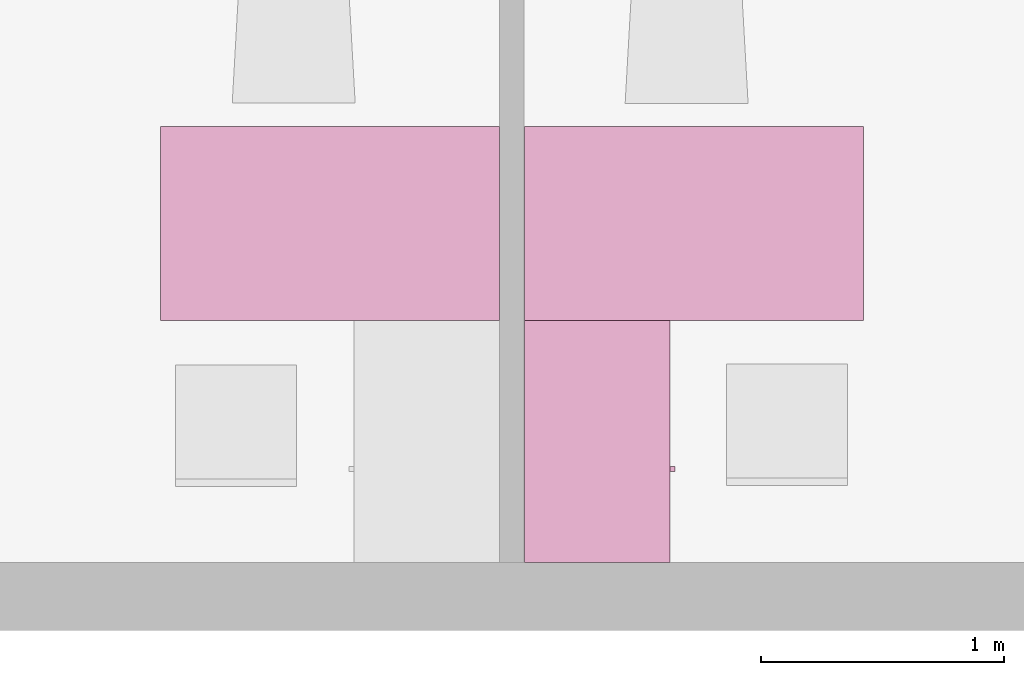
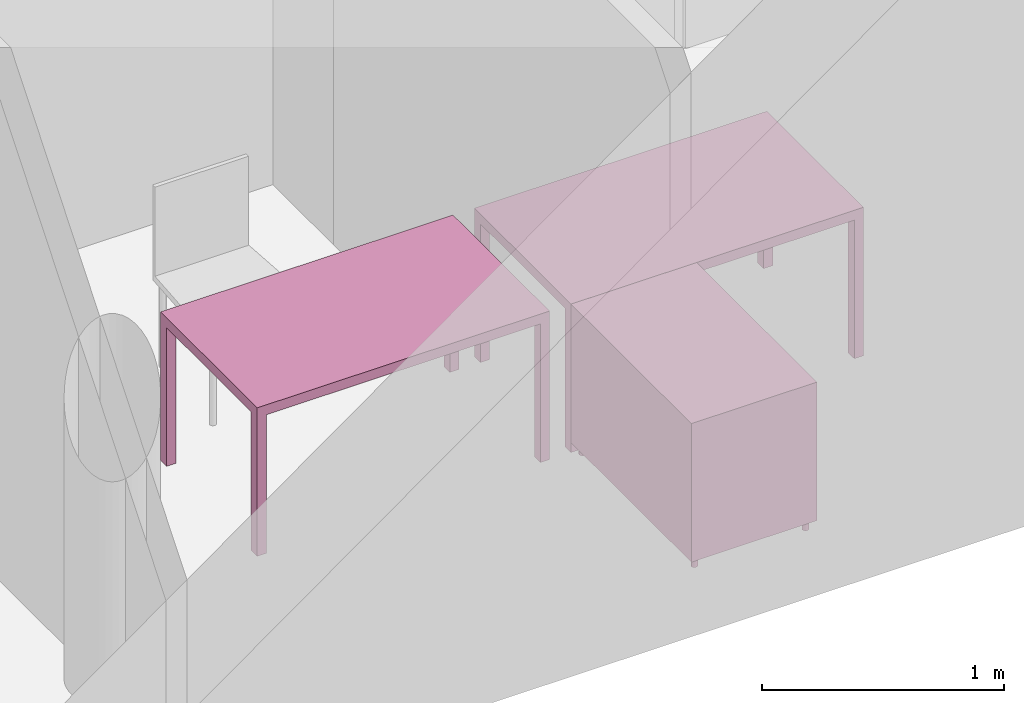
"""IFC4 building model written with IfcOpenShell, lengths in metres."""

import ifcopenshell
import ifcopenshell.guid

model = None  # the IFC model being written
_history = None  # IfcOwnerHistory: only IFC2X3 demands one
_inside = {}  # id of a spatial element -> (the spatial element, [elements in it])
_under = {}  # id of a project, library or spatial element -> (it, [spatial elements below it])
_declared = {}  # id of a project -> (the project, [libraries it declares])
_typed = {}  # id of a type object -> (the type object, [elements of that type])
_made_of = {}  # id of a material, layer set ... -> (it, [elements and type objects made of it])


def new_model(schema):
    """Start an empty IFC model of exactly this schema.

    Asked for "IFC4X3", IfcOpenShell would pick the latest addendum, in which some entities
    have other attributes; the version numbers below select the first issue.
    IFC2X3 requires an IfcOwnerHistory on every rooted entity: one is made here for all.
    """
    global model, _history
    if schema == "IFC4X3":
        model = ifcopenshell.file(schema_version=(4, 3, 0, 0))
    else:
        model = ifcopenshell.file(schema=schema)
    _inside.clear()
    _under.clear()
    _declared.clear()
    _typed.clear()
    _made_of.clear()
    _history = None
    if model.schema == "IFC2X3":
        org = make("IfcOrganization", Name="unknown")
        user = make(
            "IfcPersonAndOrganization",
            ThePerson=make("IfcPerson", FamilyName="unknown"),
            TheOrganization=org,
        )
        app = make(
            "IfcApplication",
            ApplicationDeveloper=org,
            Version="unknown",
            ApplicationFullName="unknown",
            ApplicationIdentifier="unknown",
        )
        _history = make(
            "IfcOwnerHistory",
            OwningUser=user,
            OwningApplication=app,
            ChangeAction="ADDED",
            CreationDate=0,
        )
    return model


def make(cls, **values):
    """One entity of the class cls with the attributes given. An attribute that is None is left unset."""
    return model.create_entity(
        cls, **{name: value for name, value in values.items() if value is not None}
    )


def entity(cls, *values):
    """Any entity or typed value of the class cls, its attributes in the order of the schema. None: left unset."""
    e = model.create_entity(cls)
    for i, value in enumerate(values):
        if value is not None:
            e[i] = value
    return e


def rooted(cls, **values):
    """An entity with a GlobalId (a new one), such as an element, a storey or a relation."""
    return make(cls, GlobalId=ifcopenshell.guid.new(), OwnerHistory=_history, **values)


def si_unit(unit_type, name, prefix=None):
    """IfcSIUnit, for example si_unit("LENGTHUNIT", "METRE", prefix="MILLI")."""
    return make("IfcSIUnit", UnitType=unit_type, Prefix=prefix, Name=name)


def converted_unit(unit_type, name, factor, base, dimensions=None, offset=None):
    """IfcConversionBasedUnit, such as the inch: factor (a typed value) times the base unit."""
    return make(
        "IfcConversionBasedUnit"
        if offset is None
        else "IfcConversionBasedUnitWithOffset",
        ConversionOffset=offset,
        Dimensions=None
        if dimensions is None
        else entity("IfcDimensionalExponents", *dimensions),
        UnitType=unit_type,
        Name=name,
        ConversionFactor=make(
            "IfcMeasureWithUnit", ValueComponent=factor, UnitComponent=base
        ),
    )


def derived_unit(unit_type, elements):
    """IfcDerivedUnit: a product of units, each with its exponent."""
    return make(
        "IfcDerivedUnit",
        Elements=[
            make("IfcDerivedUnitElement", Unit=unit, Exponent=power)
            for unit, power in elements
        ],
        UnitType=unit_type,
    )


def assignment(units):
    """IfcUnitAssignment: the units of a project."""
    return None if units is None else make("IfcUnitAssignment", Units=units)


def point(xyz):
    """IfcCartesianPoint."""
    return None if xyz is None else make("IfcCartesianPoint", Coordinates=xyz)


def direction(xyz):
    """IfcDirection."""
    return None if xyz is None else make("IfcDirection", DirectionRatios=xyz)


def frame(location, z_axis=None, x_axis=None):
    """IfcAxis2Placement3D, a coordinate frame: its origin and axes. An axis left out is left unset."""
    return make(
        "IfcAxis2Placement3D",
        Location=point(location),
        Axis=direction(z_axis),
        RefDirection=direction(x_axis),
    )


def origin():
    """The frame at (0, 0, 0) with its axes left unset."""
    return frame((0.0, 0.0, 0.0))


def place(relative_to, where):
    """IfcLocalPlacement: puts the frame where relative to a parent placement (None: the world)."""
    return make(
        "IfcLocalPlacement", PlacementRelTo=relative_to, RelativePlacement=where
    )


def context(
    kind, dimensions, precision=None, world=None, true_north=None, identifier=None
):
    """IfcGeometricRepresentationContext, for example the 3D "Model" context."""
    return make(
        "IfcGeometricRepresentationContext",
        ContextIdentifier=identifier,
        ContextType=kind,
        CoordinateSpaceDimension=dimensions,
        Precision=precision,
        WorldCoordinateSystem=world,
        TrueNorth=true_north,
    )


def subcontext(parent, identifier, kind, view, scale=None):
    """IfcGeometricRepresentationSubContext, for example "Body" below "Model"."""
    return make(
        "IfcGeometricRepresentationSubContext",
        ContextIdentifier=identifier,
        ContextType=kind,
        ParentContext=parent,
        TargetScale=scale,
        TargetView=view,
    )


def project(units=None, contexts=None):
    """IfcProject with its units and contexts."""
    return rooted(
        "IfcProject",
        Name="project",
        RepresentationContexts=contexts,
        UnitsInContext=assignment(units),
    )


def spatial(cls, under=None, at=None, **own):
    """A site, building, storey or space (cls), placed at a placement, below another one or the project."""
    s = rooted(cls, ObjectPlacement=at, **own)
    if under is not None:
        _under.setdefault(under.id(), (under, []))[1].append(s)
    return s


def faces_of(points, faces, orient=None, outer=None):
    """IfcFace entities. A face is a list of loops; a loop is a list of indices into points, from 0.

    orient and outer hold one flag for each loop. By default every Orientation is true, the
    first loop of a face is its IfcFaceOuterBound and the others are IfcFaceBound.
    """
    made = []
    for i, loops in enumerate(faces):
        bounds = []
        for j, loop in enumerate(loops):
            is_outer = j == 0 if outer is None else outer[i][j]
            bounds.append(
                make(
                    "IfcFaceOuterBound" if is_outer else "IfcFaceBound",
                    Bound=make("IfcPolyLoop", Polygon=[points[k] for k in loop]),
                    Orientation=True if orient is None else orient[i][j],
                )
            )
        made.append(make("IfcFace", Bounds=bounds))
    return made


def faceted_brep(points, faces, orient=None, outer=None, voids=None):
    """IfcFacetedBrep: a solid bounded by flat faces; with voids (closed shells), ...WithVoids."""
    shared = [point(p) for p in points]
    hull = make("IfcClosedShell", CfsFaces=faces_of(shared, faces, orient, outer))
    if voids is None:
        return make("IfcFacetedBrep", Outer=hull)
    return make(
        "IfcFacetedBrepWithVoids",
        Outer=hull,
        Voids=[
            make(cls, CfsFaces=faces_of(shared, fs, o, b)) for cls, fs, o, b in voids
        ],
    )


def shape(context_of_items, identifier, shape_type, items):
    """IfcShapeRepresentation: the items that make up one representation, for example the "Body"."""
    return make(
        "IfcShapeRepresentation",
        ContextOfItems=context_of_items,
        RepresentationIdentifier=identifier,
        RepresentationType=shape_type,
        Items=items,
    )


def made_of(thing, what):
    """Note that an element or type object is made of a material, layer set ...; save() writes the relation."""
    if what is not None:
        _made_of.setdefault(what.id(), (what, []))[1].append(thing)
    return thing


def element(
    cls,
    number,
    at=None,
    inside=None,
    cuts=None,
    type_object=None,
    material=None,
    context=None,
    identifier="Body",
    shape_type=None,
    held_by="IfcProductDefinitionShape",
    body=None,
    shapes=None,
    **own,
):
    """One element of the class cls, such as IfcWall. Its Tag is "e" and its number.

    at: its placement. inside: the storey or other place that contains it. cuts: it is an
    opening in that element (IfcRelVoidsElement). A single representation is given by context,
    identifier, shape_type and body (its items); several are given by shapes. held_by: the class
    of the entity that holds the representations. save() writes the other relations.
    """
    e = rooted(cls, Tag="e%d" % number, ObjectPlacement=at, **own)
    if body is not None:
        shapes = [shape(context, identifier, shape_type, body)]
    if shapes is not None:
        e.Representation = make(held_by, Representations=shapes)
    if inside is not None:
        _inside.setdefault(inside.id(), (inside, []))[1].append(e)
    if cuts is not None:
        rooted(
            "IfcRelVoidsElement", RelatingBuildingElement=cuts, RelatedOpeningElement=e
        )
    if type_object is not None:
        _typed.setdefault(type_object.id(), (type_object, []))[1].append(e)
    return made_of(e, material)


def aggregate(whole, parts):
    """IfcRelAggregates: a whole, such as a stair, and the parts it consists of."""
    return rooted("IfcRelAggregates", RelatingObject=whole, RelatedObjects=parts)


def save(model, path):
    """Write the relations noted so far, then the file.

    IfcRelAggregates (storeys below a building ...), IfcRelContainedInSpatialStructure (elements
    in a storey), IfcRelDefinesByType, IfcRelAssociatesMaterial and IfcRelDeclares: one each for
    every whole, place, type object, material and project.
    """
    for whole, parts in _under.values():
        aggregate(whole, parts)
    for where, things in _inside.values():
        rooted(
            "IfcRelContainedInSpatialStructure",
            RelatedElements=things,
            RelatingStructure=where,
        )
    for kind, things in _typed.values():
        rooted("IfcRelDefinesByType", RelatedObjects=things, RelatingType=kind)
    for what, things in _made_of.values():
        rooted("IfcRelAssociatesMaterial", RelatedObjects=things, RelatingMaterial=what)
    for by, libraries in _declared.values():
        rooted("IfcRelDeclares", RelatingContext=by, RelatedDefinitions=libraries)
    model.write(path)


model = new_model("IFC4")

# Units and contexts
model_context = context("Model", 3, precision=1e-05, world=origin())
body_context = subcontext(model_context, "Body", "Model", "MODEL_VIEW")
ifc_project = project(units=[si_unit("LENGTHUNIT", "METRE"), si_unit("AREAUNIT", "SQUARE_METRE"), si_unit("VOLUMEUNIT", "CUBIC_METRE"), si_unit("MASSUNIT", "GRAM", prefix="KILO"), converted_unit("PLANEANGLEUNIT", "DEGREE", entity("IfcPlaneAngleMeasure", 0.0174532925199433), si_unit("PLANEANGLEUNIT", "RADIAN"), dimensions=[0, 0, 0, 0, 0, 0, 0]), derived_unit("THERMALTRANSMITTANCEUNIT", [(si_unit("POWERUNIT", "WATT"), 1), (si_unit("THERMODYNAMICTEMPERATUREUNIT", "KELVIN"), -1), (si_unit("LENGTHUNIT", "METRE"), -2)]), derived_unit("VOLUMETRICFLOWRATEUNIT", [(si_unit("LENGTHUNIT", "METRE"), 3), (converted_unit("TIMEUNIT", "hour", entity("IfcTimeMeasure", 3600.0), si_unit("TIMEUNIT", "SECOND"), dimensions=[0, 0, 1, 0, 0, 0, 0]), -1), (si_unit("LENGTHUNIT", "METRE"), -1)])], contexts=[model_context])

# Building, storeys
building_placement = place(None, origin())
building = spatial("IfcBuilding", under=ifc_project, at=building_placement, Name="HABITATGE PLURIFAMILIAR", CompositionType="ELEMENT")
storey_1_placement = place(building_placement, frame((0.0, 0.0, 6.25)))
storey_1 = spatial("IfcBuildingStorey", under=building, at=storey_1_placement, Name="PLANTA PRIMERA", CompositionType="ELEMENT", Elevation=6.25)
storey_2_placement = place(storey_1_placement, frame((0.0, 0.0, 3.35)))
storey_2 = spatial("IfcBuildingStorey", under=storey_1, at=storey_2_placement, Name="NOU", CompositionType="PARTIAL")

# Furniture
furniture_1_placement = place(storey_2_placement, frame((418.598859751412, 14.1175158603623, -3.35)))
element("IfcFurniture", 1, at=furniture_1_placement, inside=storey_2, Name="Taula 140X80_P1", context=body_context, shape_type="Brep", body=[
    faceted_brep([(1.35357768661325, 0.750069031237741, 0.0), (1.39732768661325, 0.750069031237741, 0.0), (1.39732768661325, 0.800069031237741, 0.0), (1.35357768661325, 0.800069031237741, 0.0), (1.35357768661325, 0.800069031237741, 0.7), (1.39732768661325, 0.800069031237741, 0.7), (1.39732768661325, 0.750069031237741, 0.7), (1.35357768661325, 0.750069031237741, 0.7)], [[[0, 1, 2, 3]], [[4, 5, 6, 7]], [[3, 4, 7, 0]], [[2, 5, 4, 3]], [[1, 6, 5, 2]], [[0, 7, 6, 1]]], orient=[[False], [False], [False], [False], [False], [False]]),
    faceted_brep([(1.35357768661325, 0.0, 0.0), (1.39732768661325, 0.0, 0.0), (1.39732768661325, 0.05, 0.0), (1.35357768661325, 0.05, 0.0), (1.35357768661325, 0.05, 0.7), (1.39732768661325, 0.05, 0.7), (1.39732768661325, 0.0, 0.7), (1.35357768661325, 0.0, 0.7)], [[[0, 1, 2, 3]], [[4, 5, 6, 7]], [[3, 4, 7, 0]], [[2, 5, 4, 3]], [[1, 6, 5, 2]], [[0, 7, 6, 1]]], orient=[[False], [False], [False], [False], [False], [False]]),
    faceted_brep([(0.0, 0.0, 0.7), (1.39732768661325, 0.0, 0.7), (1.39732768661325, 0.800069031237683, 0.7), (0.0, 0.800069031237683, 0.7), (0.0, 0.800069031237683, 0.75), (1.39732768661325, 0.800069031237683, 0.75), (1.39732768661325, 0.0, 0.75), (0.0, 0.0, 0.75)], [[[0, 1, 2, 3]], [[4, 5, 6, 7]], [[3, 4, 7, 0]], [[2, 5, 4, 3]], [[1, 6, 5, 2]], [[0, 7, 6, 1]]], orient=[[False], [False], [False], [False], [False], [False]]),
    faceted_brep([(0.0, 0.750069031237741, 0.0), (0.04375, 0.750069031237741, 0.0), (0.04375, 0.800069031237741, 0.0), (0.0, 0.800069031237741, 0.0), (0.0, 0.800069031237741, 0.7), (0.04375, 0.800069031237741, 0.7), (0.04375, 0.750069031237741, 0.7), (0.0, 0.750069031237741, 0.7)], [[[0, 1, 2, 3]], [[4, 5, 6, 7]], [[3, 4, 7, 0]], [[2, 5, 4, 3]], [[1, 6, 5, 2]], [[0, 7, 6, 1]]], orient=[[False], [False], [False], [False], [False], [False]]),
    faceted_brep([(0.0, 0.0, 0.0), (0.04375, 0.0, 0.0), (0.04375, 0.05, 0.0), (0.0, 0.05, 0.0), (0.0, 0.05, 0.7), (0.04375, 0.05, 0.7), (0.04375, 0.0, 0.7), (0.0, 0.0, 0.7)], [[[0, 1, 2, 3]], [[4, 5, 6, 7]], [[3, 4, 7, 0]], [[2, 5, 4, 3]], [[1, 6, 5, 2]], [[0, 7, 6, 1]]], orient=[[False], [False], [False], [False], [False], [False]]),
])
furniture_2_placement = place(storey_2_placement, frame((417.09993599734, 14.1184878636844, -3.35)))
element("IfcFurniture", 2, at=furniture_2_placement, inside=storey_2, Name="Taula 140X80_P1", context=body_context, shape_type="Brep", body=[
    faceted_brep([(0.04375, 0.750069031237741, 0.0), (0.04375, 0.800069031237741, 0.0), (0.0, 0.800069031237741, 0.0), (0.0, 0.750069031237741, 0.0), (0.04375, 0.800069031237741, 0.7), (0.04375, 0.750069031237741, 0.7), (0.0, 0.750069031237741, 0.7), (0.0, 0.800069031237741, 0.7)], [[[0, 1, 2, 3]], [[4, 5, 6, 7]], [[1, 0, 5, 4]], [[2, 1, 4, 7]], [[3, 2, 7, 6]], [[0, 3, 6, 5]]], orient=[[False], [False], [False], [False], [False], [False]]),
    faceted_brep([(0.04375, 0.0, 0.0), (0.04375, 0.05, 0.0), (0.0, 0.05, 0.0), (0.0, 0.0, 0.0), (0.04375, 0.05, 0.7), (0.04375, 0.0, 0.7), (0.0, 0.0, 0.7), (0.0, 0.05, 0.7)], [[[0, 1, 2, 3]], [[4, 5, 6, 7]], [[1, 0, 5, 4]], [[2, 1, 4, 7]], [[3, 2, 7, 6]], [[0, 3, 6, 5]]], orient=[[False], [False], [False], [False], [False], [False]]),
    faceted_brep([(1.39732768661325, 0.0, 0.7), (1.39732768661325, 0.800069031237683, 0.7), (0.0, 0.800069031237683, 0.7), (0.0, 0.0, 0.7), (1.39732768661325, 0.800069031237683, 0.75), (1.39732768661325, 0.0, 0.75), (0.0, 0.0, 0.75), (0.0, 0.800069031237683, 0.75)], [[[0, 1, 2, 3]], [[4, 5, 6, 7]], [[1, 0, 5, 4]], [[2, 1, 4, 7]], [[3, 2, 7, 6]], [[0, 3, 6, 5]]], orient=[[False], [False], [False], [False], [False], [False]]),
    faceted_brep([(1.39732768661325, 0.750069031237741, 0.0), (1.39732768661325, 0.800069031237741, 0.0), (1.35357768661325, 0.800069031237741, 0.0), (1.35357768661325, 0.750069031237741, 0.0), (1.39732768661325, 0.800069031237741, 0.7), (1.39732768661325, 0.750069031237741, 0.7), (1.35357768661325, 0.750069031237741, 0.7), (1.35357768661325, 0.800069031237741, 0.7)], [[[0, 1, 2, 3]], [[4, 5, 6, 7]], [[1, 0, 5, 4]], [[2, 1, 4, 7]], [[3, 2, 7, 6]], [[0, 3, 6, 5]]], orient=[[False], [False], [False], [False], [False], [False]]),
    faceted_brep([(1.39732768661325, 0.0, 0.0), (1.39732768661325, 0.05, 0.0), (1.35357768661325, 0.05, 0.0), (1.35357768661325, 0.0, 0.0), (1.39732768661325, 0.05, 0.7), (1.39732768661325, 0.0, 0.7), (1.35357768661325, 0.0, 0.7), (1.35357768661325, 0.05, 0.7)], [[[0, 1, 2, 3]], [[4, 5, 6, 7]], [[1, 0, 5, 4]], [[2, 1, 4, 7]], [[3, 2, 7, 6]], [[0, 3, 6, 5]]], orient=[[False], [False], [False], [False], [False], [False]]),
])
furniture_3_placement = place(storey_2_placement, frame((418.598859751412, 13.1215419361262, -3.35)))
element("IfcFurniture", 3, at=furniture_3_placement, inside=storey_2, Name="Taula 100X60_P1", context=body_context, shape_type="Brep", body=[
    faceted_brep([(0.0, 1.00000000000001, 0.05), (0.600000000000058, 1.00000000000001, 0.05), (0.600000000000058, 1.00000000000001, 0.07), (0.0, 1.00000000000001, 0.07), (0.600000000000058, 0.0, 0.05), (0.600000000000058, 0.0, 0.07), (0.0, 0.0, 0.05), (0.0, 0.0, 0.07)], [[[0, 1, 2, 3]], [[1, 4, 5, 2]], [[4, 6, 7, 5]], [[6, 0, 3, 7]], [[0, 6, 4, 1]], [[3, 2, 5, 7]]], orient=[[False], [False], [False], [False], [False], [False]]),
    faceted_brep([(0.580000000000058, 1.00000000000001, 0.35), (0.0, 1.00000000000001, 0.35), (0.0, 0.0, 0.35), (0.580000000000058, 0.0, 0.35), (0.0, 1.00000000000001, 0.37), (0.580000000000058, 1.00000000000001, 0.37), (0.580000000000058, 0.0, 0.37), (0.0, 0.0, 0.37)], [[[0, 1, 2, 3]], [[4, 5, 6, 7]], [[1, 0, 5, 4]], [[2, 1, 4, 7]], [[3, 2, 7, 6]], [[0, 3, 6, 5]]], orient=[[False], [False], [False], [False], [False], [False]]),
    faceted_brep([(0.580000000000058, 0.490000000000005, 0.75), (0.580000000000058, 0.490000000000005, 0.05), (0.600000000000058, 0.490000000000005, 0.05), (0.600000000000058, 0.490000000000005, 0.75), (0.580000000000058, 0.0, 0.05), (0.600000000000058, 0.0, 0.05), (0.580000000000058, 0.0, 0.75), (0.600000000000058, 0.0, 0.75)], [[[0, 1, 2, 3]], [[1, 4, 5, 2]], [[4, 6, 7, 5]], [[6, 0, 3, 7]], [[0, 6, 4, 1]], [[3, 2, 5, 7]]], orient=[[False], [False], [False], [False], [False], [False]]),
    faceted_brep([(0.0, 0.980000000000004, 0.75), (0.0, 0.980000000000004, 0.0499999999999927), (0.0, 1.0, 0.0499999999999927), (0.0, 1.0, 0.75), (0.600000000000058, 0.980000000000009, 0.05), (0.600000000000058, 1.00000000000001, 0.05), (0.600000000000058, 0.980000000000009, 0.75), (0.600000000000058, 1.00000000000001, 0.75)], [[[0, 1, 2, 3]], [[1, 4, 5, 2]], [[4, 6, 7, 5]], [[6, 0, 3, 7]], [[0, 6, 4, 1]], [[3, 2, 5, 7]]], orient=[[False], [False], [False], [False], [False], [False]]),
    faceted_brep([(0.0, 0.470000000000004, 0.75), (0.0, 0.470000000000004, 0.0499999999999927), (0.0, 0.490000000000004, 0.0499999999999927), (0.0, 0.490000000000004, 0.75), (0.600000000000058, 0.470000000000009, 0.05), (0.600000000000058, 0.490000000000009, 0.05), (0.600000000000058, 0.470000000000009, 0.75), (0.600000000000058, 0.490000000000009, 0.75)], [[[0, 1, 2, 3]], [[1, 4, 5, 2]], [[4, 6, 7, 5]], [[6, 0, 3, 7]], [[0, 6, 4, 1]], [[3, 2, 5, 7]]], orient=[[False], [False], [False], [False], [False], [False]]),
    faceted_brep([(0.0, 0.47, 0.75000000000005), (0.0, 0.47, 0.0499999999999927), (0.0, 0.490000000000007, 0.0499999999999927), (0.0, 0.490000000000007, 0.75000000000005), (0.58, 0.469999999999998, 0.0499999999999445), (0.58, 0.490000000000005, 0.0499999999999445), (0.580000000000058, 0.469999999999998, 0.750000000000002), (0.580000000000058, 0.490000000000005, 0.750000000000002)], [[[0, 1, 2, 3]], [[1, 4, 5, 2]], [[4, 6, 7, 5]], [[6, 0, 3, 7]], [[0, 6, 4, 1]], [[3, 2, 5, 7]]], orient=[[False], [False], [False], [False], [False], [False]]),
    faceted_brep([(0.0, 0.0, 0.75), (0.0, 0.0, 0.0499999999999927), (0.0, 0.0200000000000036, 0.0499999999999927), (0.0, 0.0200000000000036, 0.75), (0.600000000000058, 0.0, 0.05), (0.600000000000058, 0.0200000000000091, 0.05), (0.600000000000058, 0.0, 0.75), (0.600000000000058, 0.0200000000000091, 0.75)], [[[0, 1, 2, 3]], [[1, 4, 5, 2]], [[4, 6, 7, 5]], [[6, 0, 3, 7]], [[0, 6, 4, 1]], [[3, 2, 5, 7]]], orient=[[False], [False], [False], [False], [False], [False]]),
    faceted_brep([(0.0, 1.00000000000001, 0.73), (0.600000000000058, 1.00000000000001, 0.73), (0.600000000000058, 1.00000000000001, 0.75), (0.0, 1.00000000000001, 0.75), (0.600000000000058, 0.0, 0.73), (0.600000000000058, 0.0, 0.75), (0.0, 0.0, 0.73), (0.0, 0.0, 0.75)], [[[0, 1, 2, 3]], [[1, 4, 5, 2]], [[4, 6, 7, 5]], [[6, 0, 3, 7]], [[0, 6, 4, 1]], [[3, 2, 5, 7]]], orient=[[False], [False], [False], [False], [False], [False]]),
    faceted_brep([(0.0, 0.980000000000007, 0.75), (0.0, 0.980000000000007, 0.05), (0.0200000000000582, 0.980000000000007, 0.05), (0.0200000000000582, 0.980000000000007, 0.75), (0.0, 0.0, 0.05), (0.0200000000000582, 0.0, 0.05), (0.0, 0.0, 0.75), (0.0200000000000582, 0.0, 0.75)], [[[0, 1, 2, 3]], [[1, 4, 5, 2]], [[4, 6, 7, 5]], [[6, 0, 3, 7]], [[0, 6, 4, 1]], [[3, 2, 5, 7]]], orient=[[False], [False], [False], [False], [False], [False]]),
    faceted_brep([(0.600000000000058, 0.374420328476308, 0.35), (0.620000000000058, 0.374420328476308, 0.35), (0.620000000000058, 0.394420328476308, 0.35), (0.600000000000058, 0.394420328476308, 0.35), (0.600000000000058, 0.394420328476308, 0.45), (0.620000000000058, 0.394420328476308, 0.45), (0.620000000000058, 0.374420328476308, 0.45), (0.600000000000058, 0.374420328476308, 0.45)], [[[0, 1, 2, 3]], [[4, 5, 6, 7]], [[3, 4, 7, 0]], [[2, 5, 4, 3]], [[1, 6, 5, 2]], [[0, 7, 6, 1]]], orient=[[False], [False], [False], [False], [False], [False]]),
    faceted_brep([(0.0361788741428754, 0.950063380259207, 0.0), (0.0387728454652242, 0.950290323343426, 0.0), (0.0412880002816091, 0.950964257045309, 0.0), (0.0436479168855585, 0.95206470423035, 0.0), (0.0457808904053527, 0.953558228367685, 0.0), (0.0476221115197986, 0.955399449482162, 0.0), (0.0491156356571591, 0.957532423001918, 0.0), (0.0502160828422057, 0.959892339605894, 0.0), (0.0508900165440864, 0.962407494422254, 0.0), (0.0511169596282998, 0.96500146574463, 0.0), (0.0508900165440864, 0.967595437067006, 0.0), (0.0502160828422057, 0.970110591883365, 0.0), (0.0491156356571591, 0.972470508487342, 0.0), (0.0476221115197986, 0.974603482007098, 0.0), (0.0457808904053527, 0.976444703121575, 0.0), (0.0436479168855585, 0.97793822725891, 0.0), (0.0412880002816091, 0.979038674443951, 0.0), (0.0387728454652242, 0.979712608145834, 0.0), (0.0361788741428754, 0.979939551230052, 0.0), (0.0335849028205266, 0.979712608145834, 0.0), (0.0310697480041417, 0.979038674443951, 0.0), (0.0287098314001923, 0.97793822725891, 0.0), (0.0265768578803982, 0.976444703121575, 0.0), (0.0247356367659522, 0.974603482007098, 0.0), (0.0232421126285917, 0.972470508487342, 0.0), (0.0221416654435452, 0.970110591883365, 0.0), (0.0214677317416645, 0.967595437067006, 0.0), (0.021240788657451, 0.96500146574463, 0.0), (0.0214677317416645, 0.962407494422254, 0.0), (0.0221416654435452, 0.959892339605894, 0.0), (0.0232421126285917, 0.957532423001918, 0.0), (0.0247356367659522, 0.955399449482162, 0.0), (0.0265768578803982, 0.953558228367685, 0.0), (0.0287098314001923, 0.95206470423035, 0.0), (0.0310697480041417, 0.950964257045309, 0.0), (0.0335849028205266, 0.950290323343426, 0.0), (0.0361788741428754, 0.950063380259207, 0.05), (0.0335849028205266, 0.950290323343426, 0.05), (0.0310697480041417, 0.950964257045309, 0.05), (0.0287098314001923, 0.95206470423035, 0.05), (0.0265768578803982, 0.953558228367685, 0.05), (0.0247356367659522, 0.955399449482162, 0.05), (0.0232421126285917, 0.957532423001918, 0.05), (0.0221416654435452, 0.959892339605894, 0.05), (0.0214677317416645, 0.962407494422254, 0.05), (0.021240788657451, 0.96500146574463, 0.05), (0.0214677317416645, 0.967595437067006, 0.05), (0.0221416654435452, 0.970110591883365, 0.05), (0.0232421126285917, 0.972470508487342, 0.05), (0.0247356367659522, 0.974603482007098, 0.05), (0.0265768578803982, 0.976444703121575, 0.05), (0.0287098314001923, 0.97793822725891, 0.05), (0.0310697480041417, 0.979038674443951, 0.05), (0.0335849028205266, 0.979712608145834, 0.05), (0.0361788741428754, 0.979939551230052, 0.05), (0.0387728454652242, 0.979712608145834, 0.05), (0.0412880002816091, 0.979038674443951, 0.05), (0.0436479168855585, 0.97793822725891, 0.05), (0.0457808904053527, 0.976444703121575, 0.05), (0.0476221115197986, 0.974603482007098, 0.05), (0.0491156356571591, 0.972470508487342, 0.05), (0.0502160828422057, 0.970110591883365, 0.05), (0.0508900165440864, 0.967595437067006, 0.05), (0.0511169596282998, 0.96500146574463, 0.05), (0.0508900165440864, 0.962407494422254, 0.05), (0.0502160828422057, 0.959892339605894, 0.05), (0.0491156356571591, 0.957532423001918, 0.05), (0.0476221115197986, 0.955399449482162, 0.05), (0.0457808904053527, 0.953558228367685, 0.05), (0.0436479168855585, 0.95206470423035, 0.05), (0.0412880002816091, 0.950964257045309, 0.05), (0.0387728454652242, 0.950290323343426, 0.05)], [[[0, 1, 2, 3, 4, 5, 6, 7, 8, 9, 10, 11, 12, 13, 14, 15, 16, 17, 18, 19, 20, 21, 22, 23, 24, 25, 26, 27, 28, 29, 30, 31, 32, 33, 34, 35]], [[36, 37, 38, 39, 40, 41, 42, 43, 44, 45, 46, 47, 48, 49, 50, 51, 52, 53, 54, 55, 56, 57, 58, 59, 60, 61, 62, 63, 64, 65, 66, 67, 68, 69, 70, 71]], [[1, 0, 36, 71]], [[2, 1, 71, 70]], [[3, 2, 70, 69]], [[4, 3, 69, 68]], [[5, 4, 68, 67]], [[6, 5, 67, 66]], [[7, 6, 66, 65]], [[8, 7, 65, 64]], [[9, 8, 64, 63]], [[10, 9, 63, 62]], [[11, 10, 62, 61]], [[12, 11, 61, 60]], [[13, 12, 60, 59]], [[14, 13, 59, 58]], [[15, 14, 58, 57]], [[16, 15, 57, 56]], [[17, 16, 56, 55]], [[18, 17, 55, 54]], [[19, 18, 54, 53]], [[20, 19, 53, 52]], [[21, 20, 52, 51]], [[22, 21, 51, 50]], [[23, 22, 50, 49]], [[24, 23, 49, 48]], [[25, 24, 48, 47]], [[26, 25, 47, 46]], [[27, 26, 46, 45]], [[28, 27, 45, 44]], [[29, 28, 44, 43]], [[30, 29, 43, 42]], [[31, 30, 42, 41]], [[32, 31, 41, 40]], [[33, 32, 40, 39]], [[34, 33, 39, 38]], [[35, 34, 38, 37]], [[0, 35, 37, 36]]], orient=[[False], [False], [False], [False], [False], [False], [False], [False], [False], [False], [False], [False], [False], [False], [False], [False], [False], [False], [False], [False], [False], [False], [False], [False], [False], [False], [False], [False], [False], [False], [False], [False], [False], [False], [False], [False], [False], [False]]),
    faceted_brep([(0.566178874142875, 0.950063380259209, 0.0), (0.568772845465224, 0.950290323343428, 0.0), (0.571288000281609, 0.950964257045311, 0.0), (0.573647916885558, 0.952064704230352, 0.0), (0.575780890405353, 0.953558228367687, 0.0), (0.577622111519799, 0.955399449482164, 0.0), (0.579115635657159, 0.95753242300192, 0.0), (0.580216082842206, 0.959892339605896, 0.0), (0.580890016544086, 0.962407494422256, 0.0), (0.5811169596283, 0.965001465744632, 0.0), (0.580890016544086, 0.967595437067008, 0.0), (0.580216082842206, 0.970110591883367, 0.0), (0.579115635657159, 0.972470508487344, 0.0), (0.577622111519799, 0.9746034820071, 0.0), (0.575780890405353, 0.976444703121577, 0.0), (0.573647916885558, 0.977938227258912, 0.0), (0.571288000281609, 0.979038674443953, 0.0), (0.568772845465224, 0.979712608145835, 0.0), (0.566178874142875, 0.979939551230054, 0.0), (0.563584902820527, 0.979712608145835, 0.0), (0.561069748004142, 0.979038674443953, 0.0), (0.558709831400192, 0.977938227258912, 0.0), (0.556576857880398, 0.976444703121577, 0.0), (0.554735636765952, 0.9746034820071, 0.0), (0.553242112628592, 0.972470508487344, 0.0), (0.552141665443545, 0.970110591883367, 0.0), (0.551467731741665, 0.967595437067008, 0.0), (0.551240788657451, 0.965001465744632, 0.0), (0.551467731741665, 0.962407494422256, 0.0), (0.552141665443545, 0.959892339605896, 0.0), (0.553242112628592, 0.95753242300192, 0.0), (0.554735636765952, 0.955399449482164, 0.0), (0.556576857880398, 0.953558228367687, 0.0), (0.558709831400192, 0.952064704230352, 0.0), (0.561069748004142, 0.950964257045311, 0.0), (0.563584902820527, 0.950290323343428, 0.0), (0.566178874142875, 0.950063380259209, 0.05), (0.563584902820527, 0.950290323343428, 0.05), (0.561069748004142, 0.950964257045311, 0.05), (0.558709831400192, 0.952064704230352, 0.05), (0.556576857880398, 0.953558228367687, 0.05), (0.554735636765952, 0.955399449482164, 0.05), (0.553242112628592, 0.95753242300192, 0.05), (0.552141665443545, 0.959892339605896, 0.05), (0.551467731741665, 0.962407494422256, 0.05), (0.551240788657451, 0.965001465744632, 0.05), (0.551467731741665, 0.967595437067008, 0.05), (0.552141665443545, 0.970110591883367, 0.05), (0.553242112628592, 0.972470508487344, 0.05), (0.554735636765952, 0.9746034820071, 0.05), (0.556576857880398, 0.976444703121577, 0.05), (0.558709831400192, 0.977938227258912, 0.05), (0.561069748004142, 0.979038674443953, 0.05), (0.563584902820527, 0.979712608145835, 0.05), (0.566178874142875, 0.979939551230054, 0.05), (0.568772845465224, 0.979712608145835, 0.05), (0.571288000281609, 0.979038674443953, 0.05), (0.573647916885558, 0.977938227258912, 0.05), (0.575780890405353, 0.976444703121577, 0.05), (0.577622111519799, 0.9746034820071, 0.05), (0.579115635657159, 0.972470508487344, 0.05), (0.580216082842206, 0.970110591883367, 0.05), (0.580890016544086, 0.967595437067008, 0.05), (0.5811169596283, 0.965001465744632, 0.05), (0.580890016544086, 0.962407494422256, 0.05), (0.580216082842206, 0.959892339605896, 0.05), (0.579115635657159, 0.95753242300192, 0.05), (0.577622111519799, 0.955399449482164, 0.05), (0.575780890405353, 0.953558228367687, 0.05), (0.573647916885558, 0.952064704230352, 0.05), (0.571288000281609, 0.950964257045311, 0.05), (0.568772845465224, 0.950290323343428, 0.05)], [[[0, 1, 2, 3, 4, 5, 6, 7, 8, 9, 10, 11, 12, 13, 14, 15, 16, 17, 18, 19, 20, 21, 22, 23, 24, 25, 26, 27, 28, 29, 30, 31, 32, 33, 34, 35]], [[36, 37, 38, 39, 40, 41, 42, 43, 44, 45, 46, 47, 48, 49, 50, 51, 52, 53, 54, 55, 56, 57, 58, 59, 60, 61, 62, 63, 64, 65, 66, 67, 68, 69, 70, 71]], [[1, 0, 36, 71]], [[2, 1, 71, 70]], [[3, 2, 70, 69]], [[4, 3, 69, 68]], [[5, 4, 68, 67]], [[6, 5, 67, 66]], [[7, 6, 66, 65]], [[8, 7, 65, 64]], [[9, 8, 64, 63]], [[10, 9, 63, 62]], [[11, 10, 62, 61]], [[12, 11, 61, 60]], [[13, 12, 60, 59]], [[14, 13, 59, 58]], [[15, 14, 58, 57]], [[16, 15, 57, 56]], [[17, 16, 56, 55]], [[18, 17, 55, 54]], [[19, 18, 54, 53]], [[20, 19, 53, 52]], [[21, 20, 52, 51]], [[22, 21, 51, 50]], [[23, 22, 50, 49]], [[24, 23, 49, 48]], [[25, 24, 48, 47]], [[26, 25, 47, 46]], [[27, 26, 46, 45]], [[28, 27, 45, 44]], [[29, 28, 44, 43]], [[30, 29, 43, 42]], [[31, 30, 42, 41]], [[32, 31, 41, 40]], [[33, 32, 40, 39]], [[34, 33, 39, 38]], [[35, 34, 38, 37]], [[0, 35, 37, 36]]], orient=[[False], [False], [False], [False], [False], [False], [False], [False], [False], [False], [False], [False], [False], [False], [False], [False], [False], [False], [False], [False], [False], [False], [False], [False], [False], [False], [False], [False], [False], [False], [False], [False], [False], [False], [False], [False], [False], [False]]),
    faceted_brep([(0.565, 0.0200170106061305, 0.0), (0.567593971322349, 0.0202439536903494, 0.0), (0.570109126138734, 0.0209178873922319, 0.0), (0.572469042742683, 0.022018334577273, 0.0), (0.574602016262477, 0.023511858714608, 0.0), (0.576443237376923, 0.0253530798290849, 0.0), (0.577936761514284, 0.0274860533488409, 0.0), (0.57903720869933, 0.0298459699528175, 0.0), (0.579711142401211, 0.032361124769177, 0.0), (0.579938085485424, 0.0349550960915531, 0.0), (0.579711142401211, 0.0375490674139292, 0.0), (0.57903720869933, 0.0400642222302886, 0.0), (0.577936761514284, 0.0424241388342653, 0.0), (0.576443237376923, 0.0445571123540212, 0.0), (0.574602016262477, 0.0463983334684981, 0.0), (0.572469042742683, 0.0478918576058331, 0.0), (0.570109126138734, 0.0489923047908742, 0.0), (0.567593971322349, 0.0496662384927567, 0.0), (0.565, 0.0498931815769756, 0.0), (0.562406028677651, 0.0496662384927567, 0.0), (0.559890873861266, 0.0489923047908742, 0.0), (0.557530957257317, 0.0478918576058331, 0.0), (0.555397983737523, 0.0463983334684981, 0.0), (0.553556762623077, 0.0445571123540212, 0.0), (0.552063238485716, 0.0424241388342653, 0.0), (0.55096279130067, 0.0400642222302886, 0.0), (0.550288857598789, 0.0375490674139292, 0.0), (0.550061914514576, 0.0349550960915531, 0.0), (0.550288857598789, 0.032361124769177, 0.0), (0.55096279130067, 0.0298459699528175, 0.0), (0.552063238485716, 0.0274860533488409, 0.0), (0.553556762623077, 0.0253530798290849, 0.0), (0.555397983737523, 0.023511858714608, 0.0), (0.557530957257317, 0.022018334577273, 0.0), (0.559890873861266, 0.0209178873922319, 0.0), (0.562406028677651, 0.0202439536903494, 0.0), (0.565, 0.0200170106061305, 0.05), (0.562406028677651, 0.0202439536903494, 0.05), (0.559890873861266, 0.0209178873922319, 0.05), (0.557530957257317, 0.022018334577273, 0.05), (0.555397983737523, 0.023511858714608, 0.05), (0.553556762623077, 0.0253530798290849, 0.05), (0.552063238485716, 0.0274860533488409, 0.05), (0.55096279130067, 0.0298459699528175, 0.05), (0.550288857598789, 0.032361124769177, 0.05), (0.550061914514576, 0.0349550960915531, 0.05), (0.550288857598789, 0.0375490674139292, 0.05), (0.55096279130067, 0.0400642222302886, 0.05), (0.552063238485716, 0.0424241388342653, 0.05), (0.553556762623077, 0.0445571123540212, 0.05), (0.555397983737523, 0.0463983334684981, 0.05), (0.557530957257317, 0.0478918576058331, 0.05), (0.559890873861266, 0.0489923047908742, 0.05), (0.562406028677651, 0.0496662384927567, 0.05), (0.565, 0.0498931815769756, 0.05), (0.567593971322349, 0.0496662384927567, 0.05), (0.570109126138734, 0.0489923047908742, 0.05), (0.572469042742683, 0.0478918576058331, 0.05), (0.574602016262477, 0.0463983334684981, 0.05), (0.576443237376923, 0.0445571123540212, 0.05), (0.577936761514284, 0.0424241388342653, 0.05), (0.57903720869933, 0.0400642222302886, 0.05), (0.579711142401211, 0.0375490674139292, 0.05), (0.579938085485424, 0.0349550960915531, 0.05), (0.579711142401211, 0.032361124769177, 0.05), (0.57903720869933, 0.0298459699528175, 0.05), (0.577936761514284, 0.0274860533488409, 0.05), (0.576443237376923, 0.0253530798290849, 0.05), (0.574602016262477, 0.023511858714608, 0.05), (0.572469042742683, 0.022018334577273, 0.05), (0.570109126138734, 0.0209178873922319, 0.05), (0.567593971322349, 0.0202439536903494, 0.05)], [[[0, 1, 2, 3, 4, 5, 6, 7, 8, 9, 10, 11, 12, 13, 14, 15, 16, 17, 18, 19, 20, 21, 22, 23, 24, 25, 26, 27, 28, 29, 30, 31, 32, 33, 34, 35]], [[36, 37, 38, 39, 40, 41, 42, 43, 44, 45, 46, 47, 48, 49, 50, 51, 52, 53, 54, 55, 56, 57, 58, 59, 60, 61, 62, 63, 64, 65, 66, 67, 68, 69, 70, 71]], [[1, 0, 36, 71]], [[2, 1, 71, 70]], [[3, 2, 70, 69]], [[4, 3, 69, 68]], [[5, 4, 68, 67]], [[6, 5, 67, 66]], [[7, 6, 66, 65]], [[8, 7, 65, 64]], [[9, 8, 64, 63]], [[10, 9, 63, 62]], [[11, 10, 62, 61]], [[12, 11, 61, 60]], [[13, 12, 60, 59]], [[14, 13, 59, 58]], [[15, 14, 58, 57]], [[16, 15, 57, 56]], [[17, 16, 56, 55]], [[18, 17, 55, 54]], [[19, 18, 54, 53]], [[20, 19, 53, 52]], [[21, 20, 52, 51]], [[22, 21, 51, 50]], [[23, 22, 50, 49]], [[24, 23, 49, 48]], [[25, 24, 48, 47]], [[26, 25, 47, 46]], [[27, 26, 46, 45]], [[28, 27, 45, 44]], [[29, 28, 44, 43]], [[30, 29, 43, 42]], [[31, 30, 42, 41]], [[32, 31, 41, 40]], [[33, 32, 40, 39]], [[34, 33, 39, 38]], [[35, 34, 38, 37]], [[0, 35, 37, 36]]], orient=[[False], [False], [False], [False], [False], [False], [False], [False], [False], [False], [False], [False], [False], [False], [False], [False], [False], [False], [False], [False], [False], [False], [False], [False], [False], [False], [False], [False], [False], [False], [False], [False], [False], [False], [False], [False], [False], [False]]),
    faceted_brep([(0.0349662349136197, 0.0203520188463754, 0.0), (0.0375602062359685, 0.0205789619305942, 0.0), (0.0400753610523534, 0.0212528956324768, 0.0), (0.0424352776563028, 0.0223533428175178, 0.0), (0.044568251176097, 0.0238468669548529, 0.0), (0.0464094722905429, 0.0256880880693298, 0.0), (0.0479029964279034, 0.0278210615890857, 0.0), (0.0490034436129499, 0.0301809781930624, 0.0), (0.0496773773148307, 0.0326961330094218, 0.0), (0.0499043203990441, 0.0352901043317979, 0.0), (0.0496773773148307, 0.037884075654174, 0.0), (0.0490034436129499, 0.0403992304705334, 0.0), (0.0479029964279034, 0.0427591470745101, 0.0), (0.0464094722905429, 0.0448921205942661, 0.0), (0.044568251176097, 0.046733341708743, 0.0), (0.0424352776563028, 0.048226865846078, 0.0), (0.0400753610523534, 0.049327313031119, 0.0), (0.0375602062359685, 0.0500012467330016, 0.0), (0.0349662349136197, 0.0502281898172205, 0.0), (0.0323722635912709, 0.0500012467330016, 0.0), (0.029857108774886, 0.049327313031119, 0.0), (0.0274971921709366, 0.048226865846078, 0.0), (0.0253642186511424, 0.046733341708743, 0.0), (0.0235229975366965, 0.0448921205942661, 0.0), (0.022029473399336, 0.0427591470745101, 0.0), (0.0209290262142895, 0.0403992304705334, 0.0), (0.0202550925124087, 0.037884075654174, 0.0), (0.0200281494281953, 0.0352901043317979, 0.0), (0.0202550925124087, 0.0326961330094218, 0.0), (0.0209290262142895, 0.0301809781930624, 0.0), (0.022029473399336, 0.0278210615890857, 0.0), (0.0235229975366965, 0.0256880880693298, 0.0), (0.0253642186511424, 0.0238468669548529, 0.0), (0.0274971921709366, 0.0223533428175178, 0.0), (0.029857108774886, 0.0212528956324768, 0.0), (0.0323722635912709, 0.0205789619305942, 0.0), (0.0349662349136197, 0.0203520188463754, 0.05), (0.0323722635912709, 0.0205789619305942, 0.05), (0.029857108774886, 0.0212528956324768, 0.05), (0.0274971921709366, 0.0223533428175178, 0.05), (0.0253642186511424, 0.0238468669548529, 0.05), (0.0235229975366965, 0.0256880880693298, 0.05), (0.022029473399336, 0.0278210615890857, 0.05), (0.0209290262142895, 0.0301809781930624, 0.05), (0.0202550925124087, 0.0326961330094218, 0.05), (0.0200281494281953, 0.0352901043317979, 0.05), (0.0202550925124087, 0.037884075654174, 0.05), (0.0209290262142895, 0.0403992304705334, 0.05), (0.022029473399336, 0.0427591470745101, 0.05), (0.0235229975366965, 0.0448921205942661, 0.05), (0.0253642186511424, 0.046733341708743, 0.05), (0.0274971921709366, 0.048226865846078, 0.05), (0.029857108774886, 0.049327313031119, 0.05), (0.0323722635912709, 0.0500012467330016, 0.05), (0.0349662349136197, 0.0502281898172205, 0.05), (0.0375602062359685, 0.0500012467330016, 0.05), (0.0400753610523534, 0.049327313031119, 0.05), (0.0424352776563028, 0.048226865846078, 0.05), (0.044568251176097, 0.046733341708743, 0.05), (0.0464094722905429, 0.0448921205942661, 0.05), (0.0479029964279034, 0.0427591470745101, 0.05), (0.0490034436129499, 0.0403992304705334, 0.05), (0.0496773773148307, 0.037884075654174, 0.05), (0.0499043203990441, 0.0352901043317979, 0.05), (0.0496773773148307, 0.0326961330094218, 0.05), (0.0490034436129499, 0.0301809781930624, 0.05), (0.0479029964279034, 0.0278210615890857, 0.05), (0.0464094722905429, 0.0256880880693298, 0.05), (0.044568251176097, 0.0238468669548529, 0.05), (0.0424352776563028, 0.0223533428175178, 0.05), (0.0400753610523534, 0.0212528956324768, 0.05), (0.0375602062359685, 0.0205789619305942, 0.05)], [[[0, 1, 2, 3, 4, 5, 6, 7, 8, 9, 10, 11, 12, 13, 14, 15, 16, 17, 18, 19, 20, 21, 22, 23, 24, 25, 26, 27, 28, 29, 30, 31, 32, 33, 34, 35]], [[36, 37, 38, 39, 40, 41, 42, 43, 44, 45, 46, 47, 48, 49, 50, 51, 52, 53, 54, 55, 56, 57, 58, 59, 60, 61, 62, 63, 64, 65, 66, 67, 68, 69, 70, 71]], [[1, 0, 36, 71]], [[2, 1, 71, 70]], [[3, 2, 70, 69]], [[4, 3, 69, 68]], [[5, 4, 68, 67]], [[6, 5, 67, 66]], [[7, 6, 66, 65]], [[8, 7, 65, 64]], [[9, 8, 64, 63]], [[10, 9, 63, 62]], [[11, 10, 62, 61]], [[12, 11, 61, 60]], [[13, 12, 60, 59]], [[14, 13, 59, 58]], [[15, 14, 58, 57]], [[16, 15, 57, 56]], [[17, 16, 56, 55]], [[18, 17, 55, 54]], [[19, 18, 54, 53]], [[20, 19, 53, 52]], [[21, 20, 52, 51]], [[22, 21, 51, 50]], [[23, 22, 50, 49]], [[24, 23, 49, 48]], [[25, 24, 48, 47]], [[26, 25, 47, 46]], [[27, 26, 46, 45]], [[28, 27, 45, 44]], [[29, 28, 44, 43]], [[30, 29, 43, 42]], [[31, 30, 42, 41]], [[32, 31, 41, 40]], [[33, 32, 40, 39]], [[34, 33, 39, 38]], [[35, 34, 38, 37]], [[0, 35, 37, 36]]], orient=[[False], [False], [False], [False], [False], [False], [False], [False], [False], [False], [False], [False], [False], [False], [False], [False], [False], [False], [False], [False], [False], [False], [False], [False], [False], [False], [False], [False], [False], [False], [False], [False], [False], [False], [False], [False], [False], [False]]),
])

save(model, "model.ifc")
